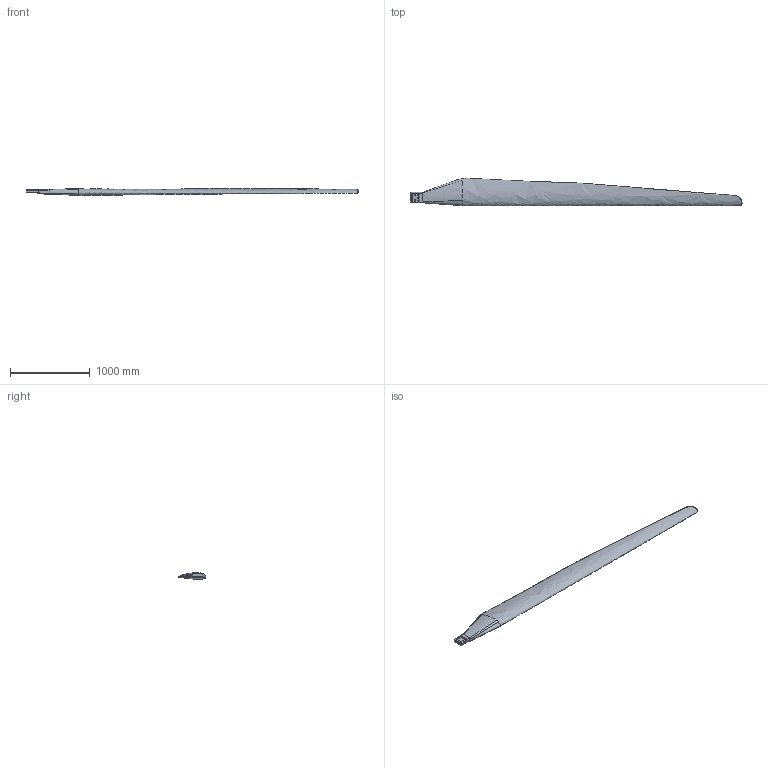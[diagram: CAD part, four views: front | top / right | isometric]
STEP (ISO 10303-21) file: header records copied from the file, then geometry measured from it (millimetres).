
FILE_DESCRIPTION((''),'2;1');
FILE_NAME('I:\- Bauteile Inventor\Flügelprofil\Flügelprofil_hm.stp','2013-04-05T21:53:33',('Benutzer_1'),(''),'Autodesk Inventor 2013','Autodesk Inventor 2013','');
FILE_SCHEMA(('AUTOMOTIVE_DESIGN { 1 0 10303 214 1 1 1 1 }'));
Length unit declared in the file: millimetre
Products named in the file (1): Flügelprofil_hm
Bounding box: 4160 x 342.62 x 84.38 mm (x, y, z)
Volume: 42063530.3 mm3; surface area: 2182273.3 mm2
Topology: 1 solids, 1 shells, 59 faces, 151 edges, 93 vertices
Faces by surface type: bspline 23, cylinder 16, plane 12, cone 6, torus 2
Full cylindrical faces by diameter (mm): 14 x2, 16.5 x6
Entity records: 4994 total; most frequent: CARTESIAN_POINT 3707, ORIENTED_EDGE 264, DIRECTION 216, EDGE_CURVE 132, AXIS2_PLACEMENT_3D 85, VERTEX_POINT 85, EDGE_LOOP 85, FACE_OUTER_BOUND 59
